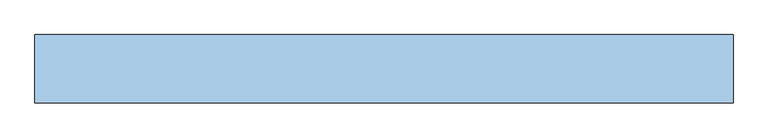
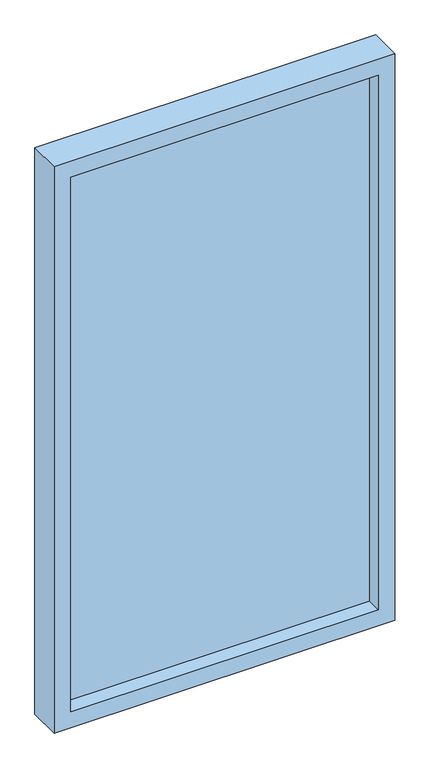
"""IFC4 building model written with IfcOpenShell, lengths in millimetres: window geometry, DFMA Window 1 Bay 2020 V1 : WI.XX, 1 Bay, Type 2."""

from ifc_helpers import new_model, si_unit, frame, origin, place, context, project, spatial, polyline, outline, extrude, source, transform, mapped, element, save


def window_83078953(model_context):
    return source(origin(), model_context, "Body", "SweptSolid", [
        extrude(outline(polyline([(462.5, -13.8), (462.5, -20.2), (-462.5, -20.2), (-462.5, -13.8), (462.5, -13.8)])), frame((0.0, 0.0, 650.0), z_axis=(0.0, 0.0, 1.0), x_axis=(1.0, 0.0, 0.0)), (0.0, 0.0, 1.0), 1700.0),
        extrude(outline(polyline([(2400.0, 512.5), (2400.0, -512.5), (600.0, -512.5), (600.0, 512.5), (2400.0, 512.5)]), holes=[polyline([(650.0, 462.5), (650.0, -462.5), (2350.0, -462.5), (2350.0, 462.5), (650.0, 462.5)])]), frame((0.0, -67.0, 0.0), z_axis=(0.0, 1.0, 0.0), x_axis=(0.0, 0.0, 1.0)), (0.0, 0.0, 1.0), 100.0),
    ])


if __name__ == "__main__":
    model = new_model("IFC4")
    model_context = context("Model", 3, world=origin())
    ifc_project = project(units=[si_unit("LENGTHUNIT", "METRE", prefix="MILLI")], contexts=[model_context])
    site = spatial("IfcSite", under=ifc_project)
    building = spatial("IfcBuilding", under=site)
    placement = place(None, origin())
    window_shape = window_83078953(model_context)
    element("IfcWindow", 1, ObjectType="DFMA Window 1 Bay 2020 V1 : WI.XX, 1 Bay, Type 2", at=placement, inside=building, context=model_context, shape_type="MappedRepresentation", body=[
        mapped(window_shape, transform((0.0, 0.0, 0.0), x_axis=(1.0, 0.0, 0.0), y_axis=(0.0, 1.0, 0.0), z_axis=(0.0, 0.0, 1.0))),
    ])
    save(model, "model.ifc")
